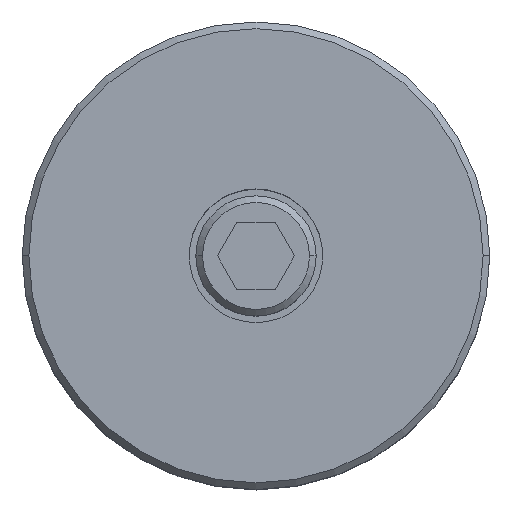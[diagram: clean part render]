
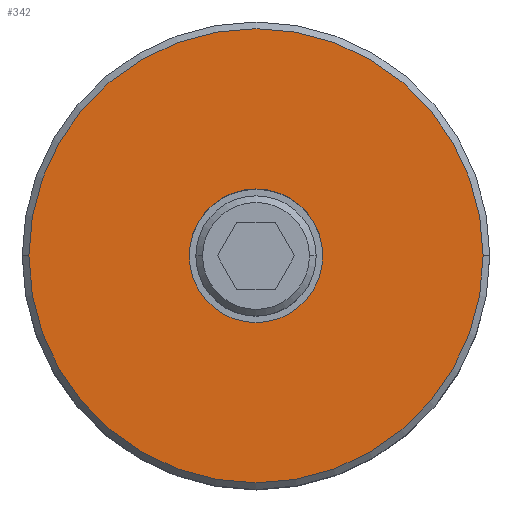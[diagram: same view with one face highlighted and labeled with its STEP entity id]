
A CAD part, top view. The second image highlights one B-rep face of the part: STEP entity #342.
In plain terms, the highlighted planar face has unit normal (0, 0, 1).
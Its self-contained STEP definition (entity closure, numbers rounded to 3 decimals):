
#101=VERTEX_POINT(' ',#102);
#102=CARTESIAN_POINT('',(-10.,0.,40.));
#103=VERTEX_POINT(' ',#104);
#104=CARTESIAN_POINT('',(10.,0.,40.));
#105=VERTEX_POINT(' ',#106);
#106=CARTESIAN_POINT('',(-34.,0.,40.));
#107=VERTEX_POINT(' ',#108);
#108=CARTESIAN_POINT('',(34.,0.,40.));
#172=CIRCLE('',#173,10.);
#173=AXIS2_PLACEMENT_3D('',#174,#175,#176);
#174=CARTESIAN_POINT('',(0.,0.,40.));
#175=DIRECTION('',(0.,0.,-1.));
#176=DIRECTION('',(0.,1.,0.));
#177=EDGE_CURVE(' ',#103,#101,#172,.T.);
#183=CIRCLE('',#184,10.);
#184=AXIS2_PLACEMENT_3D('',#185,#186,#187);
#185=CARTESIAN_POINT('',(0.,0.,40.));
#186=DIRECTION('',(0.,0.,-1.));
#187=DIRECTION('',(0.,-1.,0.));
#188=EDGE_CURVE(' ',#101,#103,#183,.T.);
#189=CIRCLE('',#190,34.);
#190=AXIS2_PLACEMENT_3D('',#191,#192,#193);
#191=CARTESIAN_POINT('',(0.,0.,40.));
#192=DIRECTION('',(0.,0.,-1.));
#193=DIRECTION('',(0.,1.,0.));
#194=EDGE_CURVE(' ',#107,#105,#189,.T.);
#195=CIRCLE('',#196,34.);
#196=AXIS2_PLACEMENT_3D('',#197,#198,#199);
#197=CARTESIAN_POINT('',(0.,0.,40.));
#198=DIRECTION('',(0.,0.,-1.));
#199=DIRECTION('',(0.,-1.,0.));
#200=EDGE_CURVE(' ',#105,#107,#195,.T.);
#329=ORIENTED_EDGE('',*,*,#194,.F.);
#330=ORIENTED_EDGE('',*,*,#200,.F.);
#331=EDGE_LOOP('',(#329,#330));
#332=FACE_OUTER_BOUND('',#331,.T.);
#333=ORIENTED_EDGE('',*,*,#188,.T.);
#334=ORIENTED_EDGE('',*,*,#177,.T.);
#335=EDGE_LOOP('',(#333,#334));
#336=FACE_BOUND('',#335,.T.);
#337=PLANE('',#338);
#338=AXIS2_PLACEMENT_3D('',#339,#340,#341);
#339=CARTESIAN_POINT('',(0.,0.,40.));
#340=DIRECTION('',(0.,0.,1.));
#341=DIRECTION('',(0.,1.,0.));
#342=ADVANCED_FACE('',(#332,#336),#337,.T.);
